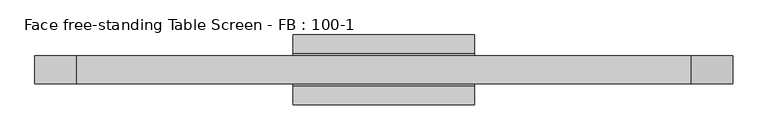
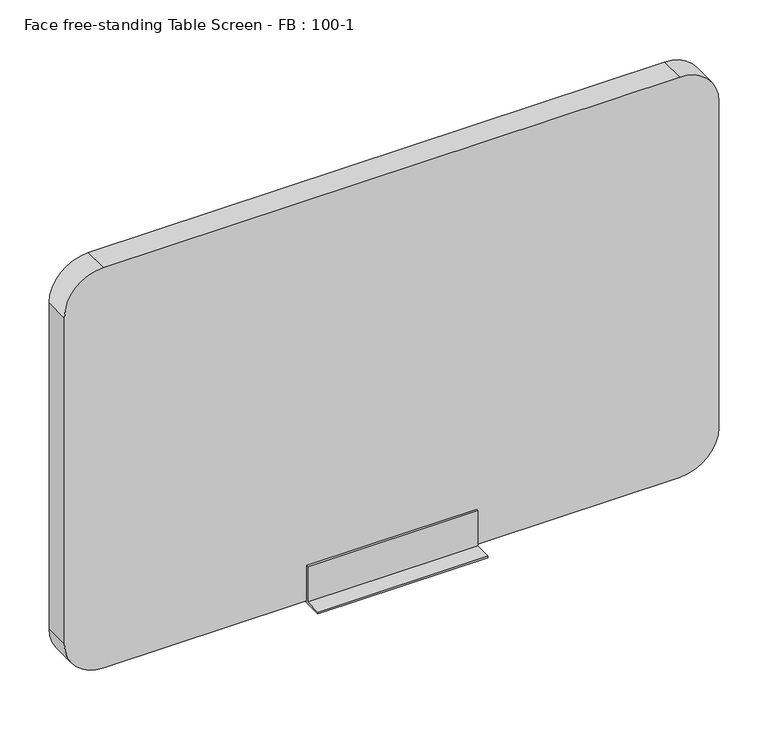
"""IFC4 building model written with IfcOpenShell, lengths in millimetres: furniture geometry, Face free-standing Table Screen - FB : 100-1."""

import ifcopenshell
import ifcopenshell.guid

model = None  # the IFC model being written
_history = None  # IfcOwnerHistory: only IFC2X3 demands one
_inside = {}  # id of a spatial element -> (the spatial element, [elements in it])
_under = {}  # id of a project, library or spatial element -> (it, [spatial elements below it])
_declared = {}  # id of a project -> (the project, [libraries it declares])
_typed = {}  # id of a type object -> (the type object, [elements of that type])
_made_of = {}  # id of a material, layer set ... -> (it, [elements and type objects made of it])


def new_model(schema):
    """Start an empty IFC model of exactly this schema.

    Asked for "IFC4X3", IfcOpenShell would pick the latest addendum, in which some entities
    have other attributes; the version numbers below select the first issue.
    IFC2X3 requires an IfcOwnerHistory on every rooted entity: one is made here for all.
    """
    global model, _history
    if schema == "IFC4X3":
        model = ifcopenshell.file(schema_version=(4, 3, 0, 0))
    else:
        model = ifcopenshell.file(schema=schema)
    _inside.clear()
    _under.clear()
    _declared.clear()
    _typed.clear()
    _made_of.clear()
    _history = None
    if model.schema == "IFC2X3":
        org = make("IfcOrganization", Name="unknown")
        user = make(
            "IfcPersonAndOrganization",
            ThePerson=make("IfcPerson", FamilyName="unknown"),
            TheOrganization=org,
        )
        app = make(
            "IfcApplication",
            ApplicationDeveloper=org,
            Version="unknown",
            ApplicationFullName="unknown",
            ApplicationIdentifier="unknown",
        )
        _history = make(
            "IfcOwnerHistory",
            OwningUser=user,
            OwningApplication=app,
            ChangeAction="ADDED",
            CreationDate=0,
        )
    return model


def make(cls, **values):
    """One entity of the class cls with the attributes given. An attribute that is None is left unset."""
    return model.create_entity(
        cls, **{name: value for name, value in values.items() if value is not None}
    )


def rooted(cls, **values):
    """An entity with a GlobalId (a new one), such as an element, a storey or a relation."""
    return make(cls, GlobalId=ifcopenshell.guid.new(), OwnerHistory=_history, **values)


def si_unit(unit_type, name, prefix=None):
    """IfcSIUnit, for example si_unit("LENGTHUNIT", "METRE", prefix="MILLI")."""
    return make("IfcSIUnit", UnitType=unit_type, Prefix=prefix, Name=name)


def assignment(units):
    """IfcUnitAssignment: the units of a project."""
    return None if units is None else make("IfcUnitAssignment", Units=units)


def point(xyz):
    """IfcCartesianPoint."""
    return None if xyz is None else make("IfcCartesianPoint", Coordinates=xyz)


def direction(xyz):
    """IfcDirection."""
    return None if xyz is None else make("IfcDirection", DirectionRatios=xyz)


def frame(location, z_axis=None, x_axis=None):
    """IfcAxis2Placement3D, a coordinate frame: its origin and axes. An axis left out is left unset."""
    return make(
        "IfcAxis2Placement3D",
        Location=point(location),
        Axis=direction(z_axis),
        RefDirection=direction(x_axis),
    )


def frame_2d(location, x_axis=None):
    """IfcAxis2Placement2D, a coordinate frame in the plane: its origin and x axis."""
    return make(
        "IfcAxis2Placement2D", Location=point(location), RefDirection=direction(x_axis)
    )


def origin():
    """The frame at (0, 0, 0) with its axes left unset."""
    return frame((0.0, 0.0, 0.0))


def place(relative_to, where):
    """IfcLocalPlacement: puts the frame where relative to a parent placement (None: the world)."""
    return make(
        "IfcLocalPlacement", PlacementRelTo=relative_to, RelativePlacement=where
    )


def context(
    kind, dimensions, precision=None, world=None, true_north=None, identifier=None
):
    """IfcGeometricRepresentationContext, for example the 3D "Model" context."""
    return make(
        "IfcGeometricRepresentationContext",
        ContextIdentifier=identifier,
        ContextType=kind,
        CoordinateSpaceDimension=dimensions,
        Precision=precision,
        WorldCoordinateSystem=world,
        TrueNorth=true_north,
    )


def project(units=None, contexts=None):
    """IfcProject with its units and contexts."""
    return rooted(
        "IfcProject",
        Name="project",
        RepresentationContexts=contexts,
        UnitsInContext=assignment(units),
    )


def spatial(cls, under=None, at=None, **own):
    """A site, building, storey or space (cls), placed at a placement, below another one or the project."""
    s = rooted(cls, ObjectPlacement=at, **own)
    if under is not None:
        _under.setdefault(under.id(), (under, []))[1].append(s)
    return s


def polyline(points):
    """IfcPolyline through the points."""
    return make("IfcPolyline", Points=[point(p) for p in points])


def circle_curve(where, radius):
    """IfcCircle in the frame where."""
    return make("IfcCircle", Position=where, Radius=radius)


def trimmed(basis, trim1, trim2, sense, master):
    """IfcTrimmedCurve: the piece of a basis curve between two trims."""
    return make(
        "IfcTrimmedCurve",
        BasisCurve=basis,
        Trim1=trim1,
        Trim2=trim2,
        SenseAgreement=sense,
        MasterRepresentation=master,
    )


def segment(curve, same_sense, transition):
    """IfcCompositeCurveSegment."""
    return make(
        "IfcCompositeCurveSegment",
        Transition=transition,
        SameSense=same_sense,
        ParentCurve=curve,
    )


def composite_curve(segments, self_intersect=None):
    """IfcCompositeCurve: segments joined end to end."""
    return make("IfcCompositeCurve", Segments=segments, SelfIntersect=self_intersect)


def outline(outer, holes=None, kind="AREA"):
    """IfcArbitraryClosedProfileDef: a profile drawn as a closed curve; with holes, ...WithVoids."""
    if holes is None:
        return make("IfcArbitraryClosedProfileDef", ProfileType=kind, OuterCurve=outer)
    return make(
        "IfcArbitraryProfileDefWithVoids",
        ProfileType=kind,
        OuterCurve=outer,
        InnerCurves=holes,
    )


def extrude(swept, where, along, depth):
    """IfcExtrudedAreaSolid: the profile swept, set in the frame where, extruded along a direction by depth."""
    return make(
        "IfcExtrudedAreaSolid",
        SweptArea=swept,
        Position=where,
        ExtrudedDirection=direction(along),
        Depth=depth,
    )


def shape(context_of_items, identifier, shape_type, items):
    """IfcShapeRepresentation: the items that make up one representation, for example the "Body"."""
    return make(
        "IfcShapeRepresentation",
        ContextOfItems=context_of_items,
        RepresentationIdentifier=identifier,
        RepresentationType=shape_type,
        Items=items,
    )


def source(mapping_origin, context_of_items, identifier, shape_type, items):
    """IfcRepresentationMap: a shape defined once, which mapped items show again and again."""
    return make(
        "IfcRepresentationMap",
        MappingOrigin=mapping_origin,
        MappedRepresentation=shape(context_of_items, identifier, shape_type, items),
    )


def transform(
    local_origin,
    x_axis=None,
    y_axis=None,
    z_axis=None,
    scale=None,
    scale2=None,
    scale3=None,
    uniform=True,
):
    """IfcCartesianTransformationOperator3D, or its non-uniform kind. x_axis, y_axis, z_axis: its Axis1, 2, 3."""
    if uniform:
        return make(
            "IfcCartesianTransformationOperator3D",
            Axis1=direction(x_axis),
            Axis2=direction(y_axis),
            LocalOrigin=point(local_origin),
            Scale=scale,
            Axis3=direction(z_axis),
        )
    return make(
        "IfcCartesianTransformationOperator3DnonUniform",
        Axis1=direction(x_axis),
        Axis2=direction(y_axis),
        LocalOrigin=point(local_origin),
        Scale=scale,
        Axis3=direction(z_axis),
        Scale2=scale2,
        Scale3=scale3,
    )


def mapped(mapping_source, mapping_target):
    """IfcMappedItem: shows the shape of a source again, moved by a transform."""
    return make(
        "IfcMappedItem", MappingSource=mapping_source, MappingTarget=mapping_target
    )


def made_of(thing, what):
    """Note that an element or type object is made of a material, layer set ...; save() writes the relation."""
    if what is not None:
        _made_of.setdefault(what.id(), (what, []))[1].append(thing)
    return thing


def element(
    cls,
    number,
    at=None,
    inside=None,
    cuts=None,
    type_object=None,
    material=None,
    context=None,
    identifier="Body",
    shape_type=None,
    held_by="IfcProductDefinitionShape",
    body=None,
    shapes=None,
    **own,
):
    """One element of the class cls, such as IfcWall. Its Tag is "e" and its number.

    at: its placement. inside: the storey or other place that contains it. cuts: it is an
    opening in that element (IfcRelVoidsElement). A single representation is given by context,
    identifier, shape_type and body (its items); several are given by shapes. held_by: the class
    of the entity that holds the representations. save() writes the other relations.
    """
    e = rooted(cls, Tag="e%d" % number, ObjectPlacement=at, **own)
    if body is not None:
        shapes = [shape(context, identifier, shape_type, body)]
    if shapes is not None:
        e.Representation = make(held_by, Representations=shapes)
    if inside is not None:
        _inside.setdefault(inside.id(), (inside, []))[1].append(e)
    if cuts is not None:
        rooted(
            "IfcRelVoidsElement", RelatingBuildingElement=cuts, RelatedOpeningElement=e
        )
    if type_object is not None:
        _typed.setdefault(type_object.id(), (type_object, []))[1].append(e)
    return made_of(e, material)


def aggregate(whole, parts):
    """IfcRelAggregates: a whole, such as a stair, and the parts it consists of."""
    return rooted("IfcRelAggregates", RelatingObject=whole, RelatedObjects=parts)


def save(model, path):
    """Write the relations noted so far, then the file.

    IfcRelAggregates (storeys below a building ...), IfcRelContainedInSpatialStructure (elements
    in a storey), IfcRelDefinesByType, IfcRelAssociatesMaterial and IfcRelDeclares: one each for
    every whole, place, type object, material and project.
    """
    for whole, parts in _under.values():
        aggregate(whole, parts)
    for where, things in _inside.values():
        rooted(
            "IfcRelContainedInSpatialStructure",
            RelatedElements=things,
            RelatingStructure=where,
        )
    for kind, things in _typed.values():
        rooted("IfcRelDefinesByType", RelatedObjects=things, RelatingType=kind)
    for what, things in _made_of.values():
        rooted("IfcRelAssociatesMaterial", RelatedObjects=things, RelatingMaterial=what)
    for by, libraries in _declared.values():
        rooted("IfcRelDeclares", RelatingContext=by, RelatedDefinitions=libraries)
    model.write(path)


def face_free_standing_table_screen_fb_100_1_674c9dfa(model_context):
    return source(origin(), model_context, "Body", "SweptSolid", [
        extrude(outline(polyline([(-50.0, 3.0), (-22.999995, 3.0), (-23.0, 60.0), (-20.0, 60.0), (-20.0, 3.0), (20.0, 3.0), (20.0, 60.0), (23.0, 60.0), (22.999995, 3.0), (50.0, 3.0), (50.0, 0.0), (-50.0, 0.0), (-50.0, 3.0)])), frame((-130.0, 0.0, 0.0), z_axis=(1.0, 0.0, 0.0), x_axis=(0.0, 1.0, 0.0)), (0.0, 0.0, 1.0), 260.0),
        extrude(outline(composite_curve([segment(polyline([(650.0, 440.0), (650.0, -440.0)]), True, "CONTINUOUS"), segment(trimmed(circle_curve(frame_2d((590.0, -440.0)), 60.0), [point((650.0, -440.0))], [point((590.0, -500.0))], False, "CARTESIAN"), True, "CONTINUOUS"), segment(polyline([(590.0, -500.0), (63.0, -500.0)]), True, "CONTINUOUS"), segment(trimmed(circle_curve(frame_2d((63.0, -440.0)), 60.0), [point((63.0, -500.0))], [point((3.0, -440.0))], False, "CARTESIAN"), True, "CONTINUOUS"), segment(polyline([(3.0, -440.0), (3.0, 440.0)]), True, "CONTINUOUS"), segment(trimmed(circle_curve(frame_2d((63.0, 440.0)), 60.0), [point((3.0, 440.0))], [point((63.0, 500.0))], False, "CARTESIAN"), True, "CONTINUOUS"), segment(polyline([(63.0, 500.0), (590.0, 500.0)]), True, "CONTINUOUS"), segment(trimmed(circle_curve(frame_2d((590.0, 440.0)), 60.0), [point((590.0, 500.0))], [point((650.0, 440.0))], False, "CARTESIAN"), True, "CONTINUOUS")], self_intersect=False)), frame((0.0, -20.0, 0.0), z_axis=(0.0, 1.0, 0.0), x_axis=(0.0, 0.0, 1.0)), (0.0, 0.0, 1.0), 40.0),
    ])


if __name__ == "__main__":
    model = new_model("IFC4")
    model_context = context("Model", 3, world=origin())
    ifc_project = project(units=[si_unit("LENGTHUNIT", "METRE", prefix="MILLI")], contexts=[model_context])
    site = spatial("IfcSite", under=ifc_project)
    building = spatial("IfcBuilding", under=site)
    placement = place(None, origin())
    face_free_standing_table_screen_fb_100_1_shape = face_free_standing_table_screen_fb_100_1_674c9dfa(model_context)
    element("IfcFurniture", 1, ObjectType="Face free-standing Table Screen - FB : 100-1", at=placement, inside=building, context=model_context, shape_type="MappedRepresentation", body=[
        mapped(face_free_standing_table_screen_fb_100_1_shape, transform((0.0, 0.0, 0.0), x_axis=(1.0, 0.0, 0.0), y_axis=(0.0, 1.0, 0.0), z_axis=(0.0, 0.0, 1.0))),
    ])
    save(model, "model.ifc")
